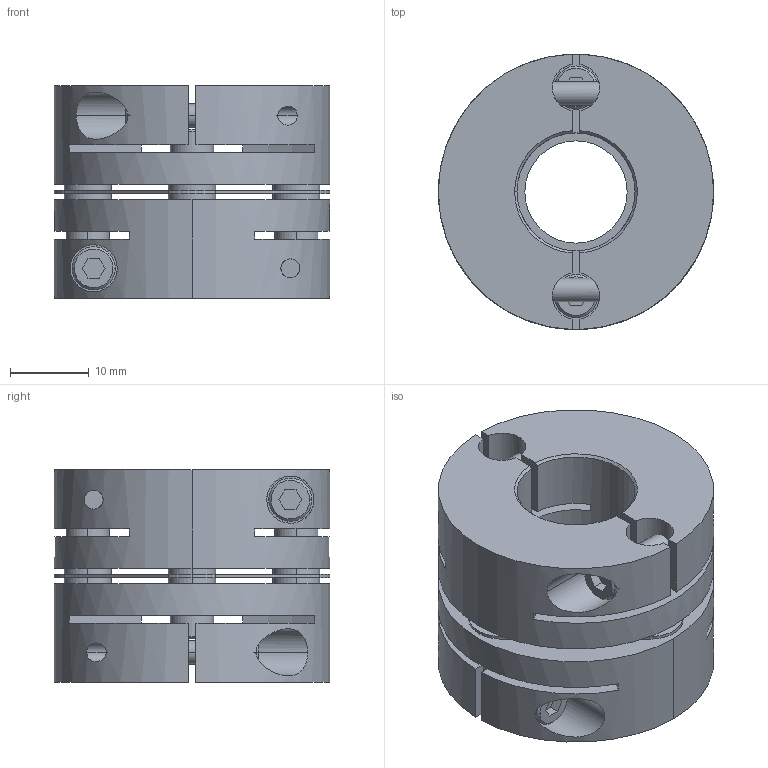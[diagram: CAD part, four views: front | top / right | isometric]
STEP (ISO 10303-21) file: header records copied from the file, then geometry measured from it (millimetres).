
FILE_DESCRIPTION((''),'2;1');
FILE_NAME('LAS-35C-15×15.stp','2011-08-10T16:53:56',(''),(''),'AutoCAD STEP 2000i','AutoCAD 2000i',', , ');
FILE_SCHEMA(('CONFIG_CONTROL_DESIGN'));
Length unit declared in the file: millimetre
Products named in the file (7): LAS-35C-14×14; 忣兜1; LA-3502-D14-1; LA-3502-D14; LA-3502-D08-1; LA-3502-D08; LAS35-ITA
Assembly tree (6 placements, depth 2):
  LAS-35C-14×14
    忣兜1
    LA-3502-D14-1
    LA-3502-D14
    LA-3502-D08-1
    LA-3502-D08
    LAS35-ITA
Bounding box: 35 x 35 x 27 mm (x, y, z)
Volume: 17845.1 mm3; surface area: 11576.6 mm2
Topology: 1 solids, 1 shells, 236 faces, 624 edges, 408 vertices
Faces by surface type: plane 112, cylinder 96, cone 28
Entity records: 8359 total; most frequent: CARTESIAN_POINT 2187, DIRECTION 1274, ORIENTED_EDGE 1248, EDGE_CURVE 624, AXIS2_PLACEMENT_3D 463, VERTEX_POINT 408, VECTOR 348, LINE 348
